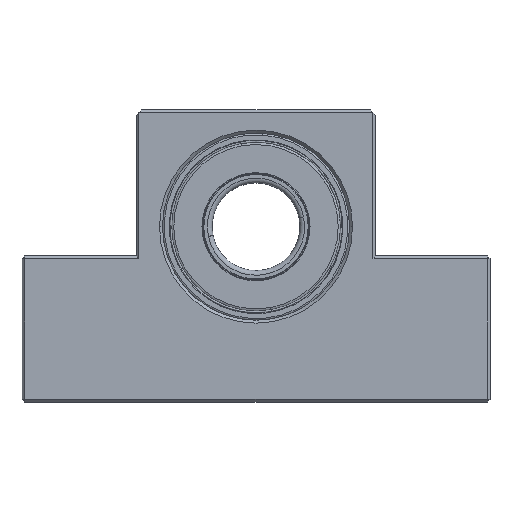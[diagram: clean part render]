
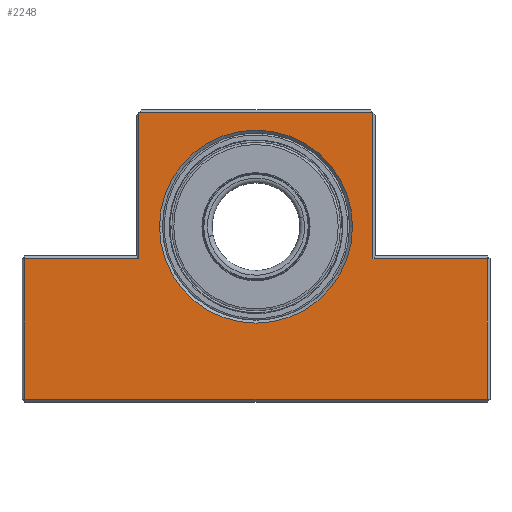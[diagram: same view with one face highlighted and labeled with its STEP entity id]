
A CAD part, top view. The second image highlights one B-rep face of the part: STEP entity #2248.
In plain terms, the highlighted planar face has unit normal (0, 0, 1).
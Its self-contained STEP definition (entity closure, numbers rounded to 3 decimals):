
#65 = CARTESIAN_POINT ( 'NONE',  ( -16.5, 30., 10. ) ) ;
#67 = LINE ( 'NONE', #1752, #1173 ) ;
#138 = CARTESIAN_POINT ( 'NONE',  ( 16.5, 30., 10. ) ) ;
#187 = ORIENTED_EDGE ( 'NONE', *, *, #1118, .T. ) ;
#249 = EDGE_CURVE ( 'NONE', #2888, #525, #1781, .T. ) ;
#302 = EDGE_CURVE ( 'NONE', #1061, #1055, #504, .T. ) ;
#379 = LINE ( 'NONE', #2666, #2675 ) ;
#390 = LINE ( 'NONE', #681, #2683 ) ;
#468 = EDGE_CURVE ( 'NONE', #1214, #2777, #692, .T. ) ;
#504 = CIRCLE ( 'NONE', #1043, 16.5 ) ;
#525 = VERTEX_POINT ( 'NONE', #2727 ) ;
#540 = DIRECTION ( 'NONE',  ( 0., 1., 0. ) ) ;
#577 = CARTESIAN_POINT ( 'NONE',  ( -40., 24.5, 10. ) ) ;
#591 = ORIENTED_EDGE ( 'NONE', *, *, #666, .T. ) ;
#608 = LINE ( 'NONE', #631, #2296 ) ;
#612 = AXIS2_PLACEMENT_3D ( 'NONE', #1381, #675, #921 ) ;
#614 = DIRECTION ( 'NONE',  ( -1., 0., 0. ) ) ;
#631 = CARTESIAN_POINT ( 'NONE',  ( 39.5, 25., 10. ) ) ;
#648 = DIRECTION ( 'NONE',  ( 1., 0., 0. ) ) ;
#658 = VECTOR ( 'NONE', #732, 1000. ) ;
#666 = EDGE_CURVE ( 'NONE', #1055, #1061, #1206, .T. ) ;
#669 = VERTEX_POINT ( 'NONE', #1948 ) ;
#675 = DIRECTION ( 'NONE',  ( 0., 0., 1. ) ) ;
#681 = CARTESIAN_POINT ( 'NONE',  ( -19.5, 49.5, 10. ) ) ;
#682 = FACE_BOUND ( 'NONE', #2442, .T. ) ;
#692 = LINE ( 'NONE', #577, #1244 ) ;
#732 = DIRECTION ( 'NONE',  ( 0., 1., 0. ) ) ;
#734 = ORIENTED_EDGE ( 'NONE', *, *, #950, .T. ) ;
#740 = DIRECTION ( 'NONE',  ( -1., 0., 0. ) ) ;
#816 = ORIENTED_EDGE ( 'NONE', *, *, #468, .T. ) ;
#861 = CARTESIAN_POINT ( 'NONE',  ( 20., 49., 10. ) ) ;
#887 = DIRECTION ( 'NONE',  ( -1., 0., 0. ) ) ;
#897 = ORIENTED_EDGE ( 'NONE', *, *, #1719, .T. ) ;
#921 = DIRECTION ( 'NONE',  ( 1., 0., 0. ) ) ;
#950 = EDGE_CURVE ( 'NONE', #525, #1369, #390, .T. ) ;
#1007 = EDGE_LOOP ( 'NONE', ( #2352, #1367, #734, #187, #816, #2554, #2046, #897 ) ) ;
#1043 = AXIS2_PLACEMENT_3D ( 'NONE', #2680, #2720, #2714 ) ;
#1055 = VERTEX_POINT ( 'NONE', #138 ) ;
#1061 = VERTEX_POINT ( 'NONE', #65 ) ;
#1107 = CARTESIAN_POINT ( 'NONE',  ( 20.5, 24.5, 10. ) ) ;
#1118 = EDGE_CURVE ( 'NONE', #1369, #1214, #2788, .T. ) ;
#1164 = CARTESIAN_POINT ( 'NONE',  ( -39.5, 24.5, 10. ) ) ;
#1173 = VECTOR ( 'NONE', #2009, 1000. ) ;
#1206 = CIRCLE ( 'NONE', #1671, 16.5 ) ;
#1214 = VERTEX_POINT ( 'NONE', #2470 ) ;
#1227 = CARTESIAN_POINT ( 'NONE',  ( -20., 49.5, 10. ) ) ;
#1244 = VECTOR ( 'NONE', #614, 1000. ) ;
#1299 = ORIENTED_EDGE ( 'NONE', *, *, #302, .T. ) ;
#1309 = FACE_OUTER_BOUND ( 'NONE', #1007, .T. ) ;
#1367 = ORIENTED_EDGE ( 'NONE', *, *, #249, .T. ) ;
#1369 = VERTEX_POINT ( 'NONE', #1227 ) ;
#1381 = CARTESIAN_POINT ( 'NONE',  ( 40., 25., 10. ) ) ;
#1408 = EDGE_CURVE ( 'NONE', #2810, #2888, #1546, .T. ) ;
#1412 = VECTOR ( 'NONE', #887, 1000. ) ;
#1495 = CARTESIAN_POINT ( 'NONE',  ( -20., 25., 10. ) ) ;
#1546 = LINE ( 'NONE', #1107, #1412 ) ;
#1586 = CARTESIAN_POINT ( 'NONE',  ( -39.5, 0.5, 10. ) ) ;
#1671 = AXIS2_PLACEMENT_3D ( 'NONE', #1845, #1821, #1815 ) ;
#1708 = VECTOR ( 'NONE', #2648, 1000. ) ;
#1719 = EDGE_CURVE ( 'NONE', #669, #2810, #608, .T. ) ;
#1739 = EDGE_CURVE ( 'NONE', #2777, #2383, #67, .T. ) ;
#1752 = CARTESIAN_POINT ( 'NONE',  ( -39.5, 0., 10. ) ) ;
#1781 = LINE ( 'NONE', #861, #658 ) ;
#1815 = DIRECTION ( 'NONE',  ( 1., 0., 0. ) ) ;
#1821 = DIRECTION ( 'NONE',  ( 0., 0., -1. ) ) ;
#1839 = CARTESIAN_POINT ( 'NONE',  ( 20., 24.5, 10. ) ) ;
#1845 = CARTESIAN_POINT ( 'NONE',  ( 0., 30., 10. ) ) ;
#1948 = CARTESIAN_POINT ( 'NONE',  ( 39.5, 0.5, 10. ) ) ;
#2009 = DIRECTION ( 'NONE',  ( 0., -1., 0. ) ) ;
#2046 = ORIENTED_EDGE ( 'NONE', *, *, #2358, .T. ) ;
#2215 = PLANE ( 'NONE',  #612 ) ;
#2248 = ADVANCED_FACE ( 'NONE', ( #682, #1309 ), #2215, .T. ) ;
#2296 = VECTOR ( 'NONE', #540, 1000. ) ;
#2352 = ORIENTED_EDGE ( 'NONE', *, *, #1408, .T. ) ;
#2358 = EDGE_CURVE ( 'NONE', #2383, #669, #379, .T. ) ;
#2383 = VERTEX_POINT ( 'NONE', #1586 ) ;
#2442 = EDGE_LOOP ( 'NONE', ( #591, #1299 ) ) ;
#2470 = CARTESIAN_POINT ( 'NONE',  ( -20., 24.5, 10. ) ) ;
#2554 = ORIENTED_EDGE ( 'NONE', *, *, #1739, .T. ) ;
#2648 = DIRECTION ( 'NONE',  ( 0., -1., 0. ) ) ;
#2666 = CARTESIAN_POINT ( 'NONE',  ( 40., 0.5, 10. ) ) ;
#2675 = VECTOR ( 'NONE', #648, 1000. ) ;
#2680 = CARTESIAN_POINT ( 'NONE',  ( 0., 30., 10. ) ) ;
#2683 = VECTOR ( 'NONE', #740, 1000. ) ;
#2714 = DIRECTION ( 'NONE',  ( 1., 0., 0. ) ) ;
#2720 = DIRECTION ( 'NONE',  ( 0., 0., -1. ) ) ;
#2727 = CARTESIAN_POINT ( 'NONE',  ( 20., 49.5, 10. ) ) ;
#2776 = CARTESIAN_POINT ( 'NONE',  ( 39.5, 24.5, 10. ) ) ;
#2777 = VERTEX_POINT ( 'NONE', #1164 ) ;
#2788 = LINE ( 'NONE', #1495, #1708 ) ;
#2810 = VERTEX_POINT ( 'NONE', #2776 ) ;
#2888 = VERTEX_POINT ( 'NONE', #1839 ) ;
